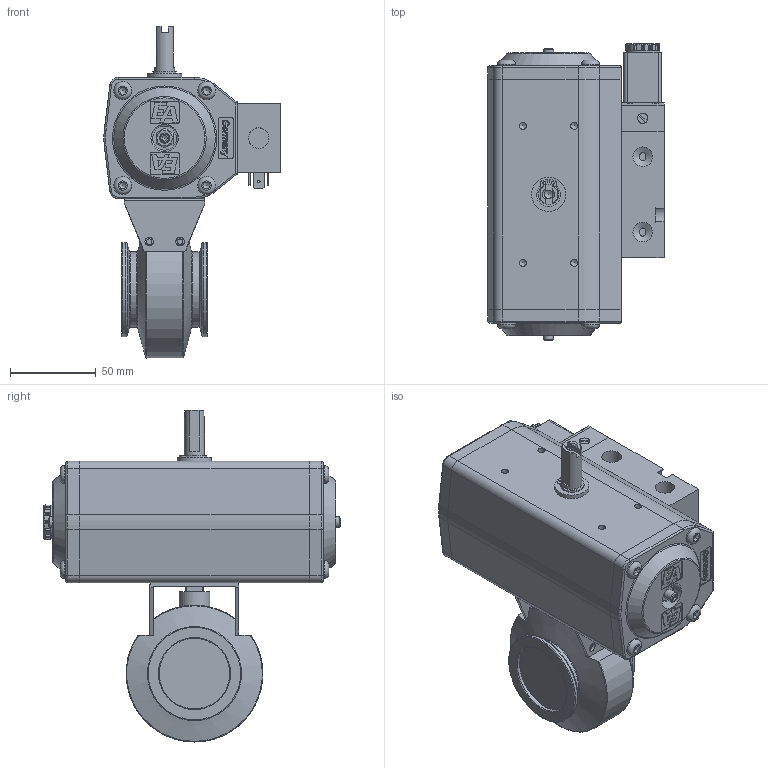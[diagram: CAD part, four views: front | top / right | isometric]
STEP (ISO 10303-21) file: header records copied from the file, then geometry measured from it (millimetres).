
FILE_DESCRIPTION( ( 'Unknown' ), '1' );
FILE_NAME( 'X:/Daten ( aktueller Bestand )/Projekte und Zeichnungen/Solid Edge/STP-Dateien/Schmetterlingsventile, handbetätigt/411432.stp', 'Unknown', ( 'Unknown' ), ( 'Unknown' ), 'PSStep 14.0', 'Unknown', ' ' );
FILE_SCHEMA( ( 'AUTOMOTIVE_DESIGN { 1 0 10303 214 1 1 1 1 }' ) );
Length unit declared in the file: millimetre
Products named in the file (19): ED620552-KUNDEN; EDG55-D; EDR55-E; EDS0200_01_0114; Seegerring A12; DIN EN 24 032  (Regelgewinde) M6_1; DIN 913  (Regelgewinde) M6 x 30; ISO 7380  (Regelgewinde) M6 x 20; DEQ0710_06_0114; Steuervemtil; AN621X07-GEH_US; DIN EN ISO 7046-1  H  (Regelgewinde) M5 x 6 - 4.8 - H; AMS00001X; AMD00001X; SV + Antrieb; Assem1; Halteblech NW25_NW40_NW50; NW 40 elektrpneum stp; Bolzen NW40 elektrf. Schmetterlingsventil
Assembly tree (31 placements, depth 4):
  Assem1
    Halteblech NW25_NW40_NW50
    NW 40 elektrpneum stp
    Bolzen NW40 elektrf. Schmetterlingsventil
    SV + Antrieb
      ED620552-KUNDEN
        EDG55-D
        EDR55-E
        EDS0200_01_0114
        Seegerring A12
        DIN EN 24 032  (Regelgewinde) M6_1  x2
        DIN 913  (Regelgewinde) M6 x 30  x2
        ISO 7380  (Regelgewinde) M6 x 20  x8
        DEQ0710_06_0114  x2
      Steuervemtil
        AN621X07-GEH_US
        DIN EN ISO 7046-1  H  (Regelgewinde) M5 x 6 - 4.8 - H  x4
        AMS00001X
        AMD00001X
Bounding box: 102.97 x 173.15 x 193.97 mm (x, y, z)
Volume: 753704.5 mm3; surface area: 197388.7 mm2
Topology: 28 solids, 28 shells, 1700 faces, 4426 edges, 2884 vertices
Faces by surface type: plane 811, cylinder 448, extrusion 178, cone 164, torus 83, bspline 16
Full cylindrical faces by diameter (mm): 1.5 x4, 1.7 x2, 2.459 x1, 3.242 x8, 3.3 x2, 3.5 x2, 3.9 x1, 4 x1, 4.134 x18, 4.509 x4, 4.917 x15, 5 x9, 5.5 x7, 5.9 x1, 6 x11, 6.2 x2, 6.5 x10, 6.8 x1, 7 x5, 8 x1, 8.566 x2, 9 x2, 9.3 x4, 10 x4, 10.5 x9, 10.9 x1, 11.445 x2, 11.8 x4, 12 x5, 12.2 x1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
Entity records: 43829 total; most frequent: CARTESIAN_POINT 9275, ORIENTED_EDGE 5018, DIRECTION 4993, EDGE_CURVE 2509, VERTEX_POINT 1792, AXIS2_PLACEMENT_3D 1782, EDGE_LOOP 1497, VECTOR 1429
